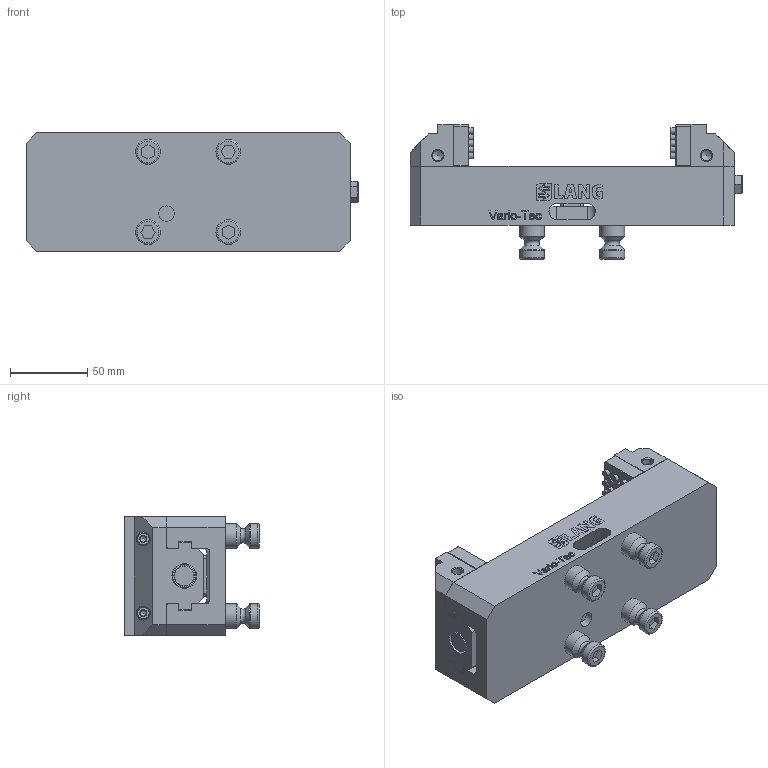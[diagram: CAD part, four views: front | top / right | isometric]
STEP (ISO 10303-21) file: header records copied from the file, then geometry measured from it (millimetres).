
FILE_DESCRIPTION (( 'STEP AP214' ), '1' );
FILE_NAME ('42137-77.STEP', '2020-03-16T07:52:41', ( '' ), ( '' ), 'SwSTEP 2.0', 'SolidWorks 2019', '' );
FILE_SCHEMA (( 'AUTOMOTIVE_DESIGN' ));
Length unit declared in the file: millimetre
Products named in the file (3): Vario-Tec_42137-77; 42137-77; 42018-77
Assembly tree (3 placements, depth 2):
  42137-77
    Vario-Tec_42137-77
    42018-77  x2
Bounding box: 215 x 87 x 77.2 mm (x, y, z)
Volume: 610273.1 mm3; surface area: 142758.8 mm2
Topology: 50 solids, 50 shells, 1150 faces, 2670 edges, 1727 vertices
Faces by surface type: plane 751, cylinder 158, bspline 140, cone 77, torus 24
Full cylindrical faces by diameter (mm): 4 x82, 4.2 x4, 5 x4, 5.5 x4, 6.8 x8, 8.5 x4, 9 x4, 10 x1, 12 x8, 13.5 x1, 16 x12
Entity records: 40728 total; most frequent: CARTESIAN_POINT 10623, ORIENTED_EDGE 4032, DIRECTION 3468, EDGE_CURVE 2016, VECTOR 1444, LINE 1444, VERTEX_POINT 1389, EDGE_LOOP 1127
